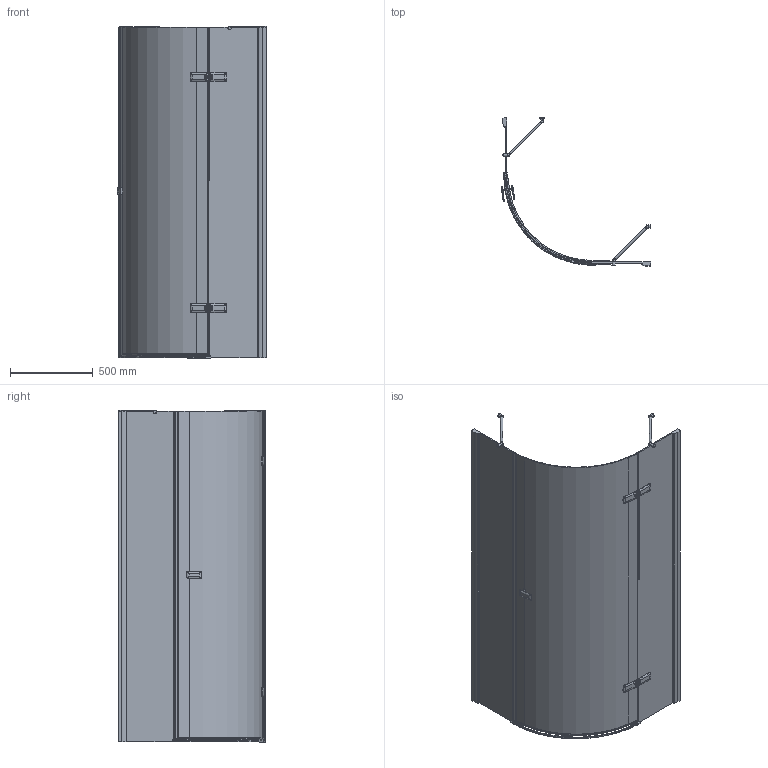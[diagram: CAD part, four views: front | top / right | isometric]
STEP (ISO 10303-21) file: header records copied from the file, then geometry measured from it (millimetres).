
FILE_DESCRIPTION(/* description */ (''),/* implementation_level */ '2;1');
FILE_NAME(/* name */ 'E:\Работа\Сергей\Душевые кабинки\! Работа\! R\TREND ROUND GK-863P\TREND ROUND GK-863P правая модель\TREND ROUND GK-863P ПРАВАЯ-3D.stp',/* time_stamp */ '2017-11-04T13:00:15+03:00',/* author */ ('PC'),/* organization */ (''),/* preprocessor_version */ 'ST-DEVELOPER v15.2',/* originating_system */ 'Autodesk Inventor 2014',/* authorisation */ '');
FILE_SCHEMA (('AUTOMOTIVE_DESIGN { 1 0 10303 214 3 1 1 }'));
Products named in the file (1): TREND ROUND GK-863P ПРАВАЯ-3
D
Bounding box: 902.79 x 893.94 x 2009.49 mm (x, y, z)
Volume: 24970588.9 mm3; surface area: 6540866.3 mm2
Topology: 7 solids, 7 shells, 1255 faces, 3387 edges, 2122 vertices
Faces by surface type: plane 677, cylinder 349, bspline 147, torus 50, cone 21, sphere 11
Full cylindrical faces by diameter (mm): 6 x2, 9 x8, 13 x2, 15 x2, 20 x4, 26 x2
Entity records: 57635 total; most frequent: CARTESIAN_POINT 25656, ORIENTED_EDGE 6590, DIRECTION 6208, EDGE_CURVE 3294, AXIS2_PLACEMENT_3D 2164, VERTEX_POINT 2104, LINE 1880, VECTOR 1880
